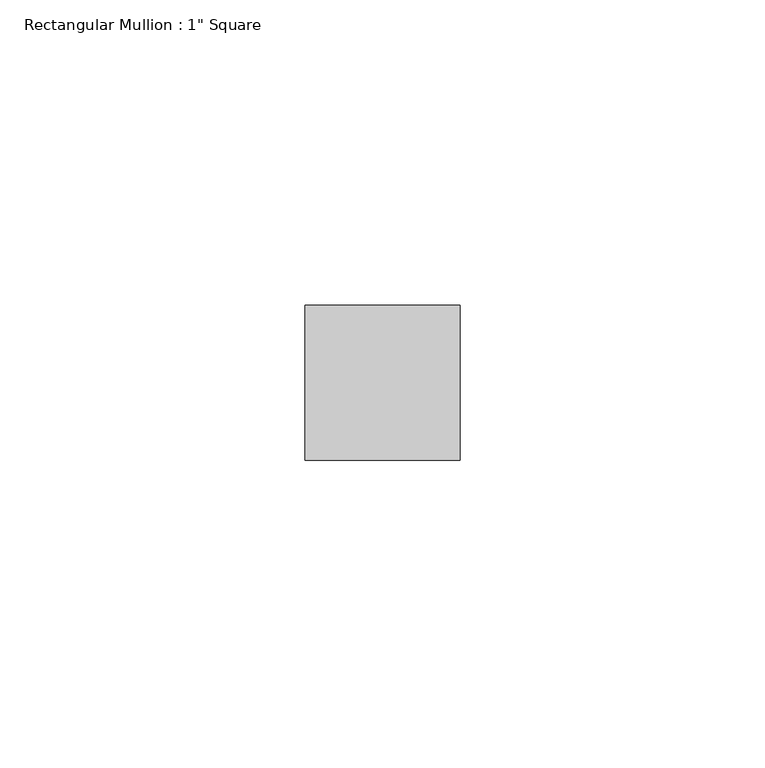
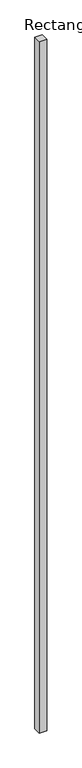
"""IFC4 building model written with IfcOpenShell, lengths in millimetres: member geometry."""

from ifc_helpers import new_model, si_unit, frame, origin, place, context, project, spatial, polyline, outline, extrude, source, transform, mapped, element, save


def member_39aef841(model_context):
    return source(origin(), model_context, "Body", "SweptSolid", [
        extrude(outline(polyline([(0.0, 12.7), (0.0, -12.7), (-25.4, -12.7), (-25.4, 12.7), (0.0, 12.7)])), frame((0.0, 0.0, -2488.2992212), z_axis=(0.0, 0.0, 1.0), x_axis=(1.0, 0.0, 0.0)), (0.0, 0.0, 1.0), 2488.2992212),
    ])


if __name__ == "__main__":
    model = new_model("IFC4")
    model_context = context("Model", 3, world=origin())
    ifc_project = project(units=[si_unit("LENGTHUNIT", "METRE", prefix="MILLI")], contexts=[model_context])
    site = spatial("IfcSite", under=ifc_project)
    building = spatial("IfcBuilding", under=site)
    placement = place(None, origin())
    member_shape = member_39aef841(model_context)
    element("IfcMember", 1, ObjectType="Rectangular Mullion : 1\" Square", at=placement, inside=building, context=model_context, shape_type="MappedRepresentation", body=[
        mapped(member_shape, transform((0.0, 0.0, 0.0), x_axis=(1.0, 0.0, 0.0), y_axis=(0.0, 1.0, 0.0), z_axis=(0.0, 0.0, 1.0))),
    ])
    save(model, "model.ifc")
